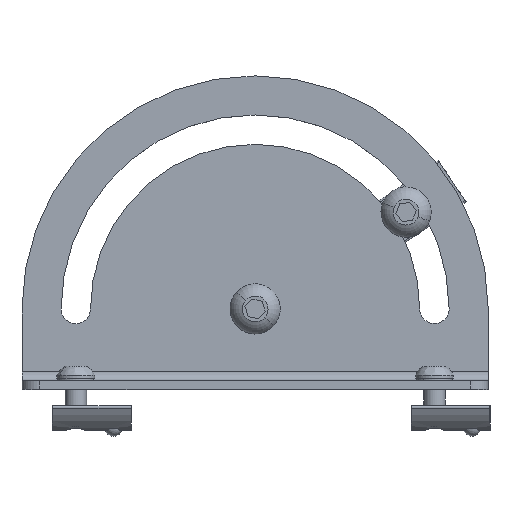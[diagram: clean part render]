
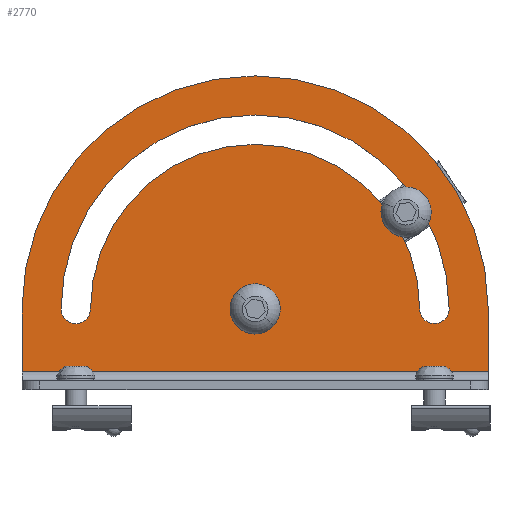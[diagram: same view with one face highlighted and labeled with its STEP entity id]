
A CAD part, top view. The second image highlights one B-rep face of the part: STEP entity #2770.
In plain terms, the highlighted planar face has unit normal (0, 0, 1) as drawn and (0, -1, 0) by its records, which use the part's own axes.
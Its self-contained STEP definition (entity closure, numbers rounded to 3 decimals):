
#15 = ORIENTED_EDGE ( 'NONE', *, *, #4319, .F. ) ;
#68 = CARTESIAN_POINT ( 'NONE',  ( -54.1, -2.5, 22.5 ) ) ;
#90 = DIRECTION ( 'NONE',  ( 0., 0., -1. ) ) ;
#148 = AXIS2_PLACEMENT_3D ( 'NONE', #7312, #7321, #4098 ) ;
#175 = ORIENTED_EDGE ( 'NONE', *, *, #3945, .F. ) ;
#218 = CARTESIAN_POINT ( 'NONE',  ( 50., -2.5, 18.4 ) ) ;
#253 = DIRECTION ( 'NONE',  ( 0., 1., 0. ) ) ;
#297 = DIRECTION ( 'NONE',  ( 0., 0., -1. ) ) ;
#299 = AXIS2_PLACEMENT_3D ( 'NONE', #7386, #5858, #7917 ) ;
#370 = ORIENTED_EDGE ( 'NONE', *, *, #1198, .F. ) ;
#451 = CARTESIAN_POINT ( 'NONE',  ( 50., -2.5, 22.5 ) ) ;
#461 = FACE_BOUND ( 'NONE', #5116, .T. ) ;
#487 = CARTESIAN_POINT ( 'NONE',  ( -50., -2.5, 22.5 ) ) ;
#557 = CARTESIAN_POINT ( 'NONE',  ( 50., -2.5, 22.5 ) ) ;
#558 = VERTEX_POINT ( 'NONE', #3109 ) ;
#559 = DIRECTION ( 'NONE',  ( 0., -1., 0. ) ) ;
#569 = DIRECTION ( 'NONE',  ( 0., 0., -1. ) ) ;
#656 = EDGE_LOOP ( 'NONE', ( #2660, #7824 ) ) ;
#792 = FACE_OUTER_BOUND ( 'NONE', #4611, .T. ) ;
#876 = EDGE_CURVE ( 'NONE', #5789, #2698, #3559, .T. ) ;
#956 = CIRCLE ( 'NONE', #1955, 4.05 ) ;
#1043 = ORIENTED_EDGE ( 'NONE', *, *, #6302, .F. ) ;
#1050 = CARTESIAN_POINT ( 'NONE',  ( 65., -2.5, 22.5 ) ) ;
#1093 = EDGE_CURVE ( 'NONE', #2698, #4823, #3756, .T. ) ;
#1115 = ORIENTED_EDGE ( 'NONE', *, *, #876, .F. ) ;
#1147 = CIRCLE ( 'NONE', #6742, 4.1 ) ;
#1198 = EDGE_CURVE ( 'NONE', #7503, #5574, #2045, .T. ) ;
#1358 = EDGE_CURVE ( 'NONE', #4248, #5789, #7401, .T. ) ;
#1392 = EDGE_CURVE ( 'NONE', #558, #7215, #8040, .T. ) ;
#1435 = EDGE_CURVE ( 'NONE', #7215, #558, #956, .T. ) ;
#1439 = CIRCLE ( 'NONE', #299, 54.1 ) ;
#1612 = CARTESIAN_POINT ( 'NONE',  ( -45.9, -2.5, 22.5 ) ) ;
#1648 = EDGE_CURVE ( 'NONE', #3851, #6070, #1147, .T. ) ;
#1909 = LINE ( 'NONE', #5209, #4290 ) ;
#1955 = AXIS2_PLACEMENT_3D ( 'NONE', #7881, #7583, #6047 ) ;
#1985 = DIRECTION ( 'NONE',  ( 0., 0., -1. ) ) ;
#2045 = CIRCLE ( 'NONE', #2123, 4.1 ) ;
#2123 = AXIS2_PLACEMENT_3D ( 'NONE', #7527, #5083, #6440 ) ;
#2271 = CIRCLE ( 'NONE', #2831, 4.1 ) ;
#2660 = ORIENTED_EDGE ( 'NONE', *, *, #1392, .F. ) ;
#2689 = AXIS2_PLACEMENT_3D ( 'NONE', #4474, #4461, #4460 ) ;
#2695 = CARTESIAN_POINT ( 'NONE',  ( 0., -2.5, 22.5 ) ) ;
#2698 = VERTEX_POINT ( 'NONE', #1050 ) ;
#2770 = ADVANCED_FACE ( 'NONE', ( #461, #6184, #792 ), #7550, .F. ) ;
#2831 = AXIS2_PLACEMENT_3D ( 'NONE', #487, #3804, #297 ) ;
#2843 = AXIS2_PLACEMENT_3D ( 'NONE', #6898, #253, #1985 ) ;
#3042 = CIRCLE ( 'NONE', #2843, 45.9 ) ;
#3109 = CARTESIAN_POINT ( 'NONE',  ( 0., -2.5, 18.45 ) ) ;
#3141 = CARTESIAN_POINT ( 'NONE',  ( -65., -2.5, 33.542 ) ) ;
#3298 = CARTESIAN_POINT ( 'NONE',  ( 45.9, -2.5, 22.5 ) ) ;
#3548 = ORIENTED_EDGE ( 'NONE', *, *, #1093, .F. ) ;
#3559 = CIRCLE ( 'NONE', #2689, 65. ) ;
#3710 = EDGE_CURVE ( 'NONE', #6070, #7061, #1439, .T. ) ;
#3756 = LINE ( 'NONE', #4441, #6913 ) ;
#3804 = DIRECTION ( 'NONE',  ( 0., -1., 0. ) ) ;
#3817 = AXIS2_PLACEMENT_3D ( 'NONE', #451, #5801, #5732 ) ;
#3851 = VERTEX_POINT ( 'NONE', #218 ) ;
#3945 = EDGE_CURVE ( 'NONE', #5939, #3851, #5666, .T. ) ;
#4098 = DIRECTION ( 'NONE',  ( 0., 0., 1. ) ) ;
#4248 = VERTEX_POINT ( 'NONE', #4587 ) ;
#4290 = VECTOR ( 'NONE', #5982, 1000. ) ;
#4319 = EDGE_CURVE ( 'NONE', #7061, #7503, #2271, .T. ) ;
#4326 = CARTESIAN_POINT ( 'NONE',  ( -65., -2.5, 22.5 ) ) ;
#4441 = CARTESIAN_POINT ( 'NONE',  ( 65., -2.5, 33.542 ) ) ;
#4460 = DIRECTION ( 'NONE',  ( 0., 0., -1. ) ) ;
#4461 = DIRECTION ( 'NONE',  ( 0., 1., 0. ) ) ;
#4474 = CARTESIAN_POINT ( 'NONE',  ( 0., -2.5, 22.5 ) ) ;
#4587 = CARTESIAN_POINT ( 'NONE',  ( -65., -2.5, 5. ) ) ;
#4611 = EDGE_LOOP ( 'NONE', ( #1115, #5739, #7095, #3548 ) ) ;
#4709 = CARTESIAN_POINT ( 'NONE',  ( 65., -2.5, 5. ) ) ;
#4823 = VERTEX_POINT ( 'NONE', #4709 ) ;
#5064 = CARTESIAN_POINT ( 'NONE',  ( -50., -2.5, 18.4 ) ) ;
#5083 = DIRECTION ( 'NONE',  ( 0., -1., 0. ) ) ;
#5116 = EDGE_LOOP ( 'NONE', ( #175, #1043, #370, #15, #7870, #8031 ) ) ;
#5209 = CARTESIAN_POINT ( 'NONE',  ( 0., -2.5, 5. ) ) ;
#5436 = VECTOR ( 'NONE', #6052, 1000. ) ;
#5574 = VERTEX_POINT ( 'NONE', #1612 ) ;
#5645 = DIRECTION ( 'NONE',  ( 0., 0., -1. ) ) ;
#5666 = CIRCLE ( 'NONE', #3817, 4.1 ) ;
#5732 = DIRECTION ( 'NONE',  ( 0., 0., -1. ) ) ;
#5739 = ORIENTED_EDGE ( 'NONE', *, *, #1358, .F. ) ;
#5766 = AXIS2_PLACEMENT_3D ( 'NONE', #2695, #7992, #90 ) ;
#5789 = VERTEX_POINT ( 'NONE', #4326 ) ;
#5801 = DIRECTION ( 'NONE',  ( 0., -1., 0. ) ) ;
#5858 = DIRECTION ( 'NONE',  ( 0., -1., 0. ) ) ;
#5939 = VERTEX_POINT ( 'NONE', #3298 ) ;
#5982 = DIRECTION ( 'NONE',  ( -1., 0., 0. ) ) ;
#6047 = DIRECTION ( 'NONE',  ( 0., 0., -1. ) ) ;
#6052 = DIRECTION ( 'NONE',  ( 0., 0., 1. ) ) ;
#6070 = VERTEX_POINT ( 'NONE', #6367 ) ;
#6184 = FACE_BOUND ( 'NONE', #656, .T. ) ;
#6302 = EDGE_CURVE ( 'NONE', #5574, #5939, #3042, .T. ) ;
#6327 = EDGE_CURVE ( 'NONE', #4823, #4248, #1909, .T. ) ;
#6367 = CARTESIAN_POINT ( 'NONE',  ( 54.1, -2.5, 22.5 ) ) ;
#6440 = DIRECTION ( 'NONE',  ( 0., 0., -1. ) ) ;
#6742 = AXIS2_PLACEMENT_3D ( 'NONE', #557, #559, #569 ) ;
#6885 = CARTESIAN_POINT ( 'NONE',  ( 0., -2.5, 26.55 ) ) ;
#6898 = CARTESIAN_POINT ( 'NONE',  ( 0., -2.5, 22.5 ) ) ;
#6913 = VECTOR ( 'NONE', #5645, 1000. ) ;
#7061 = VERTEX_POINT ( 'NONE', #68 ) ;
#7095 = ORIENTED_EDGE ( 'NONE', *, *, #6327, .F. ) ;
#7215 = VERTEX_POINT ( 'NONE', #6885 ) ;
#7312 = CARTESIAN_POINT ( 'NONE',  ( 0., -2.5, 33.542 ) ) ;
#7321 = DIRECTION ( 'NONE',  ( 0., 1., 0. ) ) ;
#7386 = CARTESIAN_POINT ( 'NONE',  ( 0., -2.5, 22.5 ) ) ;
#7401 = LINE ( 'NONE', #3141, #5436 ) ;
#7503 = VERTEX_POINT ( 'NONE', #5064 ) ;
#7527 = CARTESIAN_POINT ( 'NONE',  ( -50., -2.5, 22.5 ) ) ;
#7550 = PLANE ( 'NONE',  #148 ) ;
#7583 = DIRECTION ( 'NONE',  ( 0., -1., 0. ) ) ;
#7824 = ORIENTED_EDGE ( 'NONE', *, *, #1435, .F. ) ;
#7870 = ORIENTED_EDGE ( 'NONE', *, *, #3710, .F. ) ;
#7881 = CARTESIAN_POINT ( 'NONE',  ( 0., -2.5, 22.5 ) ) ;
#7917 = DIRECTION ( 'NONE',  ( 0., 0., -1. ) ) ;
#7992 = DIRECTION ( 'NONE',  ( 0., -1., 0. ) ) ;
#8031 = ORIENTED_EDGE ( 'NONE', *, *, #1648, .F. ) ;
#8040 = CIRCLE ( 'NONE', #5766, 4.05 ) ;
